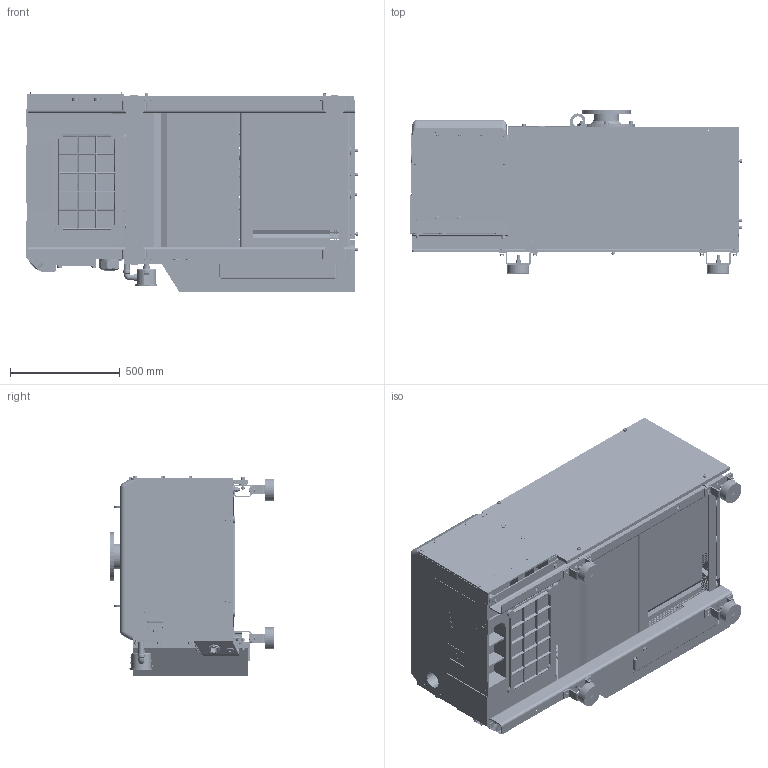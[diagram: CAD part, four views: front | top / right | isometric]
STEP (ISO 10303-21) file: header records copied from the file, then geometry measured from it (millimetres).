
FILE_DESCRIPTION((''),'2;1');
FILE_NAME('960875_8','2009-12-11T',('L2200051'),('Copyright by Leybold GmbH'),'PRO/ENGINEER BY PARAMETRIC TECHNOLOGY CORPORATION, 2009140','PRO/ENGINEER BY PARAMETRIC TECHNOLOGY CORPORATION, 2009140','');
FILE_SCHEMA(('AUTOMOTIVE_DESIGN { 1 0 10303 214 1 1 1 1 }'));
Products named in the file (1): 960875_8
Bounding box: 1510 x 743 x 908.5 mm (x, y, z)
Surface area: 15989329.7 mm2 (no closed solid volume)
Topology: 0 solids, 794 shells, 4846 faces, 23273 edges, 18806 vertices
Faces by surface type: plane 2689, cylinder 1309, cone 680, torus 105, bspline 44, sphere 19
Entity records: 283886 total; most frequent: CARTESIAN_POINT 82681, DIRECTION 33976, ORIENTED_EDGE 31828, EDGE_CURVE 23271, VERTEX_POINT 18806, VECTOR 13312, LINE 13312, AXIS2_PLACEMENT_3D 10332
